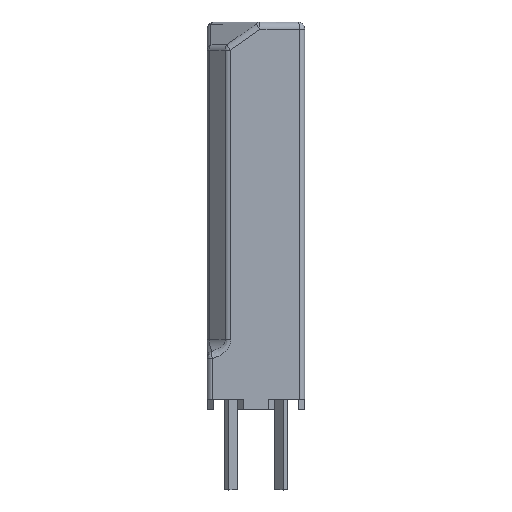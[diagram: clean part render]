
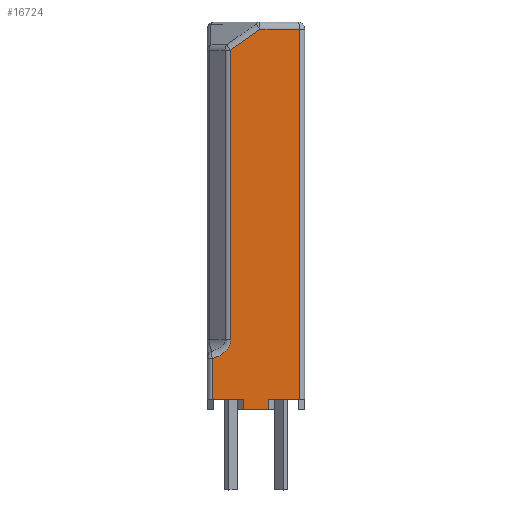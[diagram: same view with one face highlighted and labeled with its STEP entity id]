
A CAD part, top view. The second image highlights one B-rep face of the part: STEP entity #16724.
In plain terms, the highlighted planar face has unit normal (0, 0, 1).
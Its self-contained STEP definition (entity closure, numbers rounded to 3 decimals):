
#25 = EDGE_CURVE ( 'NONE', #12706, #2001, #14794, .T. ) ;
#88 = ORIENTED_EDGE ( 'NONE', *, *, #739, .T. ) ;
#187 = CARTESIAN_POINT ( 'NONE',  ( -1.012, 2.4, 1.95 ) ) ;
#739 = EDGE_CURVE ( 'NONE', #5265, #2001, #11167, .T. ) ;
#988 = EDGE_CURVE ( 'NONE', #12629, #7784, #3101, .T. ) ;
#1435 = CARTESIAN_POINT ( 'NONE',  ( -1.036, 13.959, 1.95 ) ) ;
#1751 = EDGE_CURVE ( 'NONE', #7258, #12629, #17352, .T. ) ;
#2001 = VERTEX_POINT ( 'NONE', #11043 ) ;
#2441 = DIRECTION ( 'NONE',  ( 0., 1., 0. ) ) ;
#2522 = LINE ( 'NONE', #2741, #20358 ) ;
#2741 = CARTESIAN_POINT ( 'NONE',  ( -1.012, 15.1, 1.95 ) ) ;
#2778 = EDGE_CURVE ( 'NONE', #9132, #3497, #20625, .T. ) ;
#2848 = VECTOR ( 'NONE', #8274, 1000. ) ;
#2927 = VECTOR ( 'NONE', #7590, 1000. ) ;
#3101 = LINE ( 'NONE', #1435, #7715 ) ;
#3195 = ORIENTED_EDGE ( 'NONE', *, *, #25, .F. ) ;
#3366 = CARTESIAN_POINT ( 'NONE',  ( 1.95, 0., 1.95 ) ) ;
#3462 = CARTESIAN_POINT ( 'NONE',  ( -1.012, 13.976, 1.95 ) ) ;
#3497 = VERTEX_POINT ( 'NONE', #19749 ) ;
#3746 = EDGE_CURVE ( 'NONE', #3497, #15256, #16241, .T. ) ;
#4086 = VECTOR ( 'NONE', #8088, 1000. ) ;
#4585 = CARTESIAN_POINT ( 'NONE',  ( 0.278, 14.8, 1.95 ) ) ;
#4743 = EDGE_LOOP ( 'NONE', ( #17405, #11102, #88, #3195, #22006, #5383, #6919, #21952, #16197, #12828, #18681 ) ) ;
#5192 = AXIS2_PLACEMENT_3D ( 'NONE', #9166, #21225, #10844 ) ;
#5265 = VERTEX_POINT ( 'NONE', #19317 ) ;
#5326 = CARTESIAN_POINT ( 'NONE',  ( -0.5, -0.4, 1.95 ) ) ;
#5363 = CARTESIAN_POINT ( 'NONE',  ( 1.75, 14.8, 1.95 ) ) ;
#5383 = ORIENTED_EDGE ( 'NONE', *, *, #2778, .T. ) ;
#5644 =( BOUNDED_CURVE ( )  B_SPLINE_CURVE ( 3, ( #187, #20477, #19164, #8861 ),
 .UNSPECIFIED., .F., .F. ) 
 B_SPLINE_CURVE_WITH_KNOTS ( ( 4, 4 ),
 ( 3.142, 4.358 ),
 .UNSPECIFIED. ) 
 CURVE ( )  GEOMETRIC_REPRESENTATION_ITEM ( )  RATIONAL_B_SPLINE_CURVE ( ( 1., 0.881, 0.881, 1. ) ) 
 REPRESENTATION_ITEM ( '' )  );
#6514 = CARTESIAN_POINT ( 'NONE',  ( -0.5, -0.4, 1.95 ) ) ;
#6521 = EDGE_CURVE ( 'NONE', #15256, #7258, #7858, .T. ) ;
#6634 = VERTEX_POINT ( 'NONE', #12505 ) ;
#6869 = VECTOR ( 'NONE', #2441, 1000. ) ;
#6919 = ORIENTED_EDGE ( 'NONE', *, *, #3746, .T. ) ;
#7258 = VERTEX_POINT ( 'NONE', #5363 ) ;
#7590 = DIRECTION ( 'NONE',  ( 0., -1., 0. ) ) ;
#7715 = VECTOR ( 'NONE', #21910, 1000. ) ;
#7784 = VERTEX_POINT ( 'NONE', #3462 ) ;
#7858 = LINE ( 'NONE', #11985, #21061 ) ;
#8088 = DIRECTION ( 'NONE',  ( -1., 0., 0. ) ) ;
#8095 = CARTESIAN_POINT ( 'NONE',  ( -0.5, -0.4, 1.95 ) ) ;
#8274 = DIRECTION ( 'NONE',  ( -1., 0., 0. ) ) ;
#8861 = CARTESIAN_POINT ( 'NONE',  ( -1.75, 1.65, 1.95 ) ) ;
#9132 = VERTEX_POINT ( 'NONE', #15882 ) ;
#9166 = CARTESIAN_POINT ( 'NONE',  ( 1.95, 15.1, 1.95 ) ) ;
#10164 = VECTOR ( 'NONE', #17416, 1000. ) ;
#10387 = EDGE_CURVE ( 'NONE', #7784, #16622, #2522, .T. ) ;
#10405 = CARTESIAN_POINT ( 'NONE',  ( 1.95, 0., 1.95 ) ) ;
#10636 = PLANE ( 'NONE',  #5192 ) ;
#10844 = DIRECTION ( 'NONE',  ( -1., 0., 0. ) ) ;
#11043 = CARTESIAN_POINT ( 'NONE',  ( -0.5, 0., 1.95 ) ) ;
#11102 = ORIENTED_EDGE ( 'NONE', *, *, #20213, .T. ) ;
#11167 = LINE ( 'NONE', #10405, #15302 ) ;
#11370 = DIRECTION ( 'NONE',  ( 0., -1., 0. ) ) ;
#11590 = VECTOR ( 'NONE', #11921, 1000. ) ;
#11921 = DIRECTION ( 'NONE',  ( 1., 0., 0. ) ) ;
#11985 = CARTESIAN_POINT ( 'NONE',  ( 1.75, 15.1, 1.95 ) ) ;
#12117 = EDGE_CURVE ( 'NONE', #9132, #12706, #16080, .T. ) ;
#12505 = CARTESIAN_POINT ( 'NONE',  ( -1.75, 1.65, 1.95 ) ) ;
#12629 = VERTEX_POINT ( 'NONE', #16466 ) ;
#12706 = VERTEX_POINT ( 'NONE', #8095 ) ;
#12828 = ORIENTED_EDGE ( 'NONE', *, *, #988, .T. ) ;
#13152 = FACE_OUTER_BOUND ( 'NONE', #4743, .T. ) ;
#13641 = EDGE_CURVE ( 'NONE', #16622, #6634, #5644, .T. ) ;
#13750 = DIRECTION ( 'NONE',  ( 0., 1., 0. ) ) ;
#14794 = LINE ( 'NONE', #5326, #10164 ) ;
#15256 = VERTEX_POINT ( 'NONE', #17658 ) ;
#15302 = VECTOR ( 'NONE', #17529, 1000. ) ;
#15882 = CARTESIAN_POINT ( 'NONE',  ( 0.5, -0.4, 1.95 ) ) ;
#16080 = LINE ( 'NONE', #6514, #2848 ) ;
#16167 = LINE ( 'NONE', #17910, #2927 ) ;
#16197 = ORIENTED_EDGE ( 'NONE', *, *, #1751, .T. ) ;
#16241 = LINE ( 'NONE', #3366, #11590 ) ;
#16466 = CARTESIAN_POINT ( 'NONE',  ( 0.154, 14.8, 1.95 ) ) ;
#16622 = VERTEX_POINT ( 'NONE', #19105 ) ;
#16724 = ADVANCED_FACE ( 'NONE', ( #13152 ), #10636, .F. ) ;
#17352 = LINE ( 'NONE', #4585, #4086 ) ;
#17405 = ORIENTED_EDGE ( 'NONE', *, *, #13641, .T. ) ;
#17416 = DIRECTION ( 'NONE',  ( 0., 1., 0. ) ) ;
#17529 = DIRECTION ( 'NONE',  ( 1., 0., 0. ) ) ;
#17658 = CARTESIAN_POINT ( 'NONE',  ( 1.75, 0., 1.95 ) ) ;
#17910 = CARTESIAN_POINT ( 'NONE',  ( -1.75, 15.1, 1.95 ) ) ;
#18681 = ORIENTED_EDGE ( 'NONE', *, *, #10387, .T. ) ;
#19105 = CARTESIAN_POINT ( 'NONE',  ( -1.012, 2.4, 1.95 ) ) ;
#19164 = CARTESIAN_POINT ( 'NONE',  ( -1.291, 1.77, 1.95 ) ) ;
#19317 = CARTESIAN_POINT ( 'NONE',  ( -1.75, 0., 1.95 ) ) ;
#19749 = CARTESIAN_POINT ( 'NONE',  ( 0.5, 0., 1.95 ) ) ;
#20213 = EDGE_CURVE ( 'NONE', #6634, #5265, #16167, .T. ) ;
#20358 = VECTOR ( 'NONE', #11370, 1000. ) ;
#20477 = CARTESIAN_POINT ( 'NONE',  ( -1.012, 2.054, 1.95 ) ) ;
#20625 = LINE ( 'NONE', #21306, #6869 ) ;
#21061 = VECTOR ( 'NONE', #13750, 1000. ) ;
#21225 = DIRECTION ( 'NONE',  ( 0., 0., -1. ) ) ;
#21306 = CARTESIAN_POINT ( 'NONE',  ( 0.5, -0.4, 1.95 ) ) ;
#21910 = DIRECTION ( 'NONE',  ( -0.816, -0.577, 0. ) ) ;
#21952 = ORIENTED_EDGE ( 'NONE', *, *, #6521, .T. ) ;
#22006 = ORIENTED_EDGE ( 'NONE', *, *, #12117, .F. ) ;
